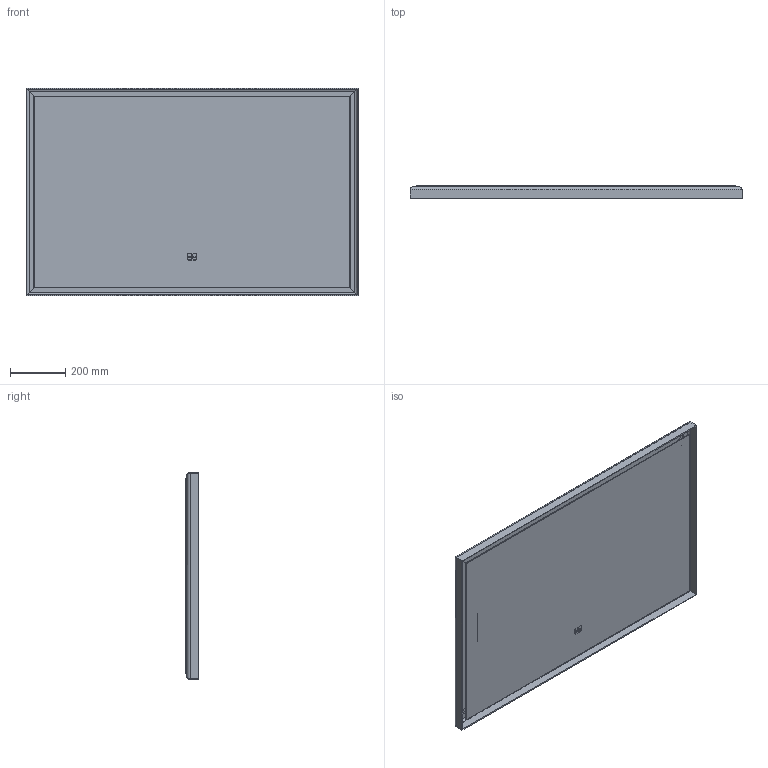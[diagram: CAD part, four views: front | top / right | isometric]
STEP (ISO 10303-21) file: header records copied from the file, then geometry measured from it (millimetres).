
FILE_DESCRIPTION(/* description */ (''),/* implementation_level */ '2;1');
FILE_NAME(/* name */ 'K:\ACAD\PERSPECT\Freisteller\V&B\Subway 3.0\A46312YY.stp',/* time_stamp */ '2020-07-28T15:24:59+02:00',/* author */ ('StegeR'),/* organization */ (''),/* preprocessor_version */ 'ST-DEVELOPER v16.1',/* originating_system */ 'Autodesk Inventor 2016',/* authorisation */ '');
FILE_SCHEMA (('AUTOMOTIVE_DESIGN { 1 0 10303 214 3 1 1 }'));
Length unit declared in the file: millimetre
Products named in the file (1): A46312YY
Bounding box: 1200 x 45.5 x 750 mm (x, y, z)
Volume: 5586687.1 mm3; surface area: 3100042.2 mm2
Topology: 35 solids, 35 shells, 802 faces, 2041 edges, 1358 vertices
Faces by surface type: plane 594, cylinder 200, bspline 8
Full cylindrical faces by diameter (mm): 0.488 x2, 4.4 x12, 5.8 x24
Entity records: 24117 total; most frequent: CARTESIAN_POINT 4308, ORIENTED_EDGE 4006, DIRECTION 4005, EDGE_CURVE 2003, LINE 1575, VECTOR 1575, VERTEX_POINT 1358, AXIS2_PLACEMENT_3D 1215
